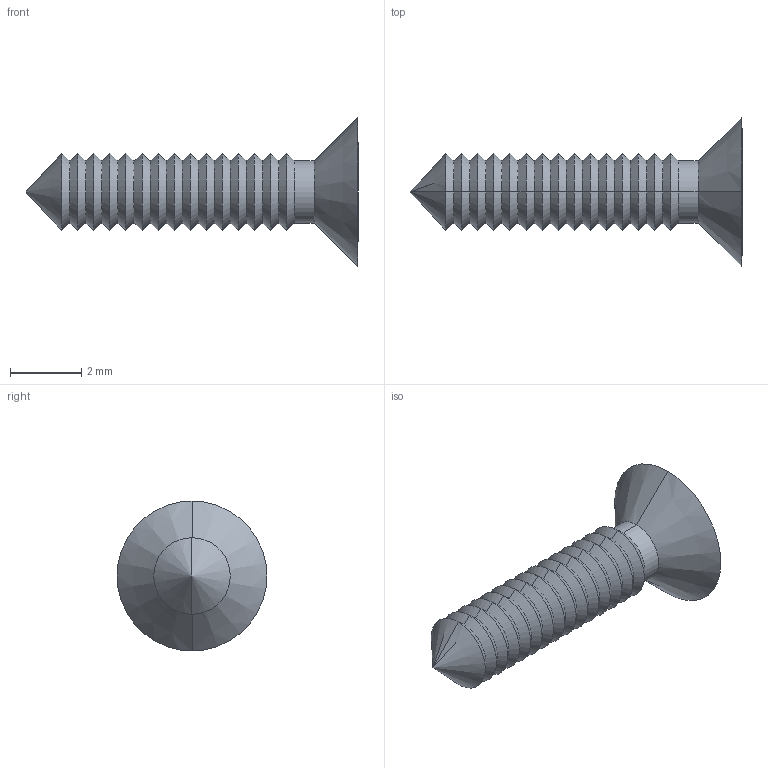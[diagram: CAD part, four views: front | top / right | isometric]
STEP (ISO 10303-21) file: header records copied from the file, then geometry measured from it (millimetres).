
FILE_DESCRIPTION (( 'STEP AP214' ), '1' );
FILE_NAME ('Cargol 2,2x9,3 PP77B.STEP', '2018-01-05T11:13:43', ( 'aaa' ), ( '' ), 'SwSTEP 2.0', 'SolidWorks 2013', '' );
FILE_SCHEMA (( 'AUTOMOTIVE_DESIGN' ));
Length unit declared in the file: millimetre
Products named in the file (1): Cargol 2,2x9,3 PP77B
Bounding box: 9.3 x 4.2 x 4.2 mm (x, y, z)
Volume: 30.1 mm3; surface area: 94.7 mm2
Topology: 1 solids, 1 shells, 78 faces, 166 edges, 89 vertices
Faces by surface type: cone 62, plane 14, cylinder 2
Entity records: 2058 total; most frequent: DIRECTION 386, CARTESIAN_POINT 332, ORIENTED_EDGE 328, EDGE_CURVE 164, AXIS2_PLACEMENT_3D 143, LINE 100, VECTOR 100, VERTEX_POINT 89
